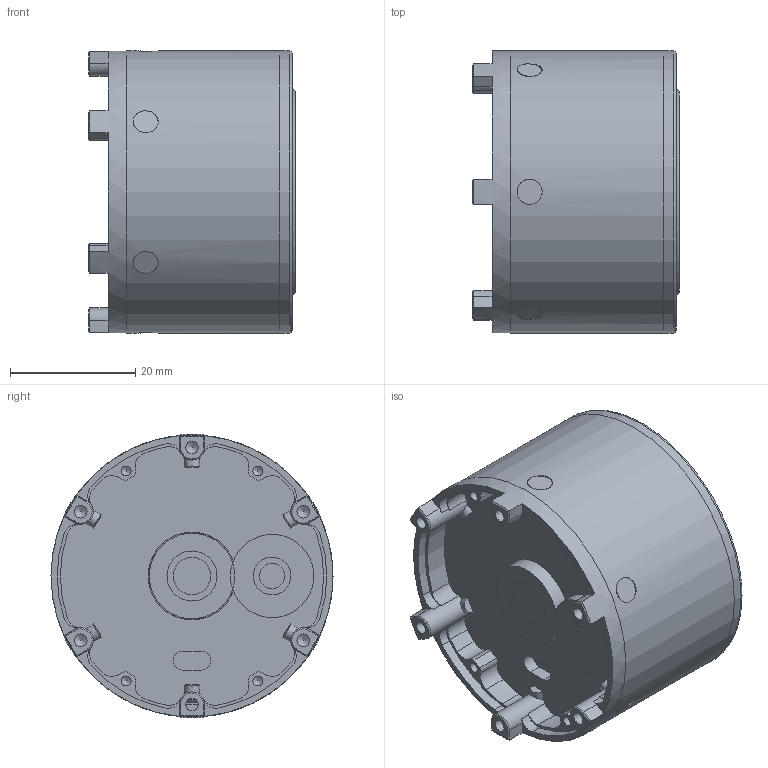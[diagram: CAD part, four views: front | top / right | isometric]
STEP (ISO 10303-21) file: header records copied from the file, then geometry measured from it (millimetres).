
FILE_DESCRIPTION(/* description */ (''),/* implementation_level */ '2;1');
FILE_NAME(/* name */ '',/* time_stamp */ '2025-09-12T10:55:58+08:00',/* author */ ('JIAO'),/* organization */ (''),/* preprocessor_version */ 'ST-DEVELOPER v19.2',/* originating_system */ 'Autodesk Inventor 2024',/* authorisation */ '');
FILE_SCHEMA (('AUTOMOTIVE_DESIGN { 1 0 10303 214 3 1 1 }'));
Length unit declared in the file: millimetre
Products named in the file (1): 3505-9{V37-9)双编-250804_简化_
1
Bounding box: 33 x 45 x 45.2 mm (x, y, z)
Volume: 36549.2 mm3; surface area: 19540.2 mm2
Topology: 1 solids, 6 shells, 398 faces, 1033 edges, 639 vertices
Faces by surface type: plane 205, cylinder 151, cone 40, torus 2
Full cylindrical faces by diameter (mm): 1.567 x4, 2 x1, 2.013 x21, 2.459 x3, 4.5 x1, 5 x1, 6 x4, 8 x2, 13.65 x1, 13.8 x1, 14 x1, 33 x1, 33.367 x4, 33.5 x1, 34.385 x1, 34.6 x1, 35 x1, 35.8 x1, 37.8 x2, 39.5 x2, 41 x1, 45 x3
Entity records: 13067 total; most frequent: CARTESIAN_POINT 2431, DIRECTION 2317, ORIENTED_EDGE 2028, EDGE_CURVE 1014, AXIS2_PLACEMENT_3D 941, VERTEX_POINT 639, CIRCLE 518, EDGE_LOOP 468
